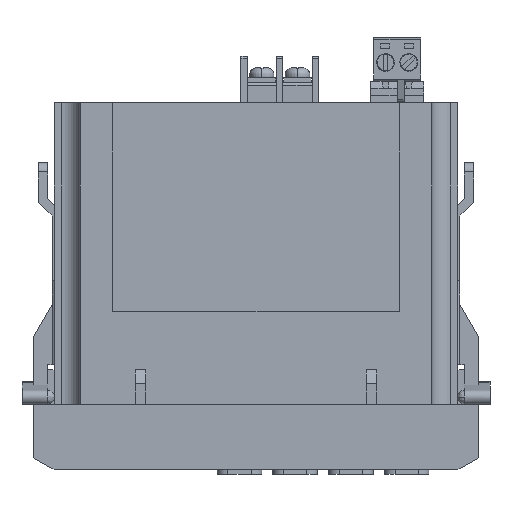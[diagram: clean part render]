
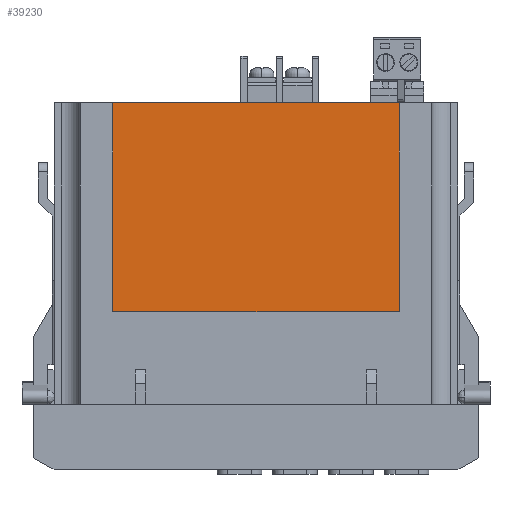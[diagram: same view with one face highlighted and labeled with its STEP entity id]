
A CAD part, front view. The second image highlights one B-rep face of the part: STEP entity #39230.
In plain terms, the highlighted planar face has unit normal (0, -1, 0).
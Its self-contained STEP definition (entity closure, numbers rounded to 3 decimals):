
#6940 = CARTESIAN_POINT ( 'NONE',  ( -39.425, -55.55, -45. ) ) ;
#6963 = DIRECTION ( 'NONE',  ( -1., 0., 0. ) ) ;
#7100 = ORIENTED_EDGE ( 'NONE', *, *, #21744, .T. ) ;
#8423 = EDGE_LOOP ( 'NONE', ( #46865, #28726, #29500, #7100 ) ) ;
#8868 = EDGE_CURVE ( 'NONE', #21302, #59522, #20430, .T. ) ;
#11552 = CARTESIAN_POINT ( 'NONE',  ( -50.456, -55.55, 0. ) ) ;
#12336 = LINE ( 'NONE', #11552, #60556 ) ;
#14679 = CARTESIAN_POINT ( 'NONE',  ( 0., -55.55, -45. ) ) ;
#14951 = VECTOR ( 'NONE', #54016, 1000. ) ;
#15928 = AXIS2_PLACEMENT_3D ( 'NONE', #56755, #47484, #47682 ) ;
#18569 = VERTEX_POINT ( 'NONE', #55102 ) ;
#19138 = DIRECTION ( 'NONE',  ( 0., 0., 1. ) ) ;
#20430 = LINE ( 'NONE', #38894, #54316 ) ;
#21302 = VERTEX_POINT ( 'NONE', #59785 ) ;
#21744 = EDGE_CURVE ( 'NONE', #59522, #54411, #38238, .T. ) ;
#28726 = ORIENTED_EDGE ( 'NONE', *, *, #36840, .T. ) ;
#29500 = ORIENTED_EDGE ( 'NONE', *, *, #8868, .T. ) ;
#33689 = CARTESIAN_POINT ( 'NONE',  ( 22.275, -55.55, -45. ) ) ;
#35389 = FACE_OUTER_BOUND ( 'NONE', #8423, .T. ) ;
#36840 = EDGE_CURVE ( 'NONE', #18569, #21302, #12336, .T. ) ;
#38238 = LINE ( 'NONE', #14679, #14951 ) ;
#38894 = CARTESIAN_POINT ( 'NONE',  ( -39.425, -55.55, 0. ) ) ;
#39230 = ADVANCED_FACE ( 'NONE', ( #35389 ), #42417, .T. ) ;
#42417 = PLANE ( 'NONE',  #15928 ) ;
#44696 = VECTOR ( 'NONE', #19138, 1000. ) ;
#46865 = ORIENTED_EDGE ( 'NONE', *, *, #56549, .T. ) ;
#47484 = DIRECTION ( 'NONE',  ( 0., -1., 0. ) ) ;
#47682 = DIRECTION ( 'NONE',  ( 0., 0., -1. ) ) ;
#54016 = DIRECTION ( 'NONE',  ( 1., 0., 0. ) ) ;
#54316 = VECTOR ( 'NONE', #58288, 1000. ) ;
#54411 = VERTEX_POINT ( 'NONE', #33689 ) ;
#55102 = CARTESIAN_POINT ( 'NONE',  ( 22.275, -55.55, 0. ) ) ;
#56549 = EDGE_CURVE ( 'NONE', #54411, #18569, #57544, .T. ) ;
#56755 = CARTESIAN_POINT ( 'NONE',  ( 0., -55.55, 0. ) ) ;
#57544 = LINE ( 'NONE', #62522, #44696 ) ;
#58288 = DIRECTION ( 'NONE',  ( 0., 0., -1. ) ) ;
#59522 = VERTEX_POINT ( 'NONE', #6940 ) ;
#59785 = CARTESIAN_POINT ( 'NONE',  ( -39.425, -55.55, 0. ) ) ;
#60556 = VECTOR ( 'NONE', #6963, 1000. ) ;
#62522 = CARTESIAN_POINT ( 'NONE',  ( 22.275, -55.55, 0. ) ) ;
